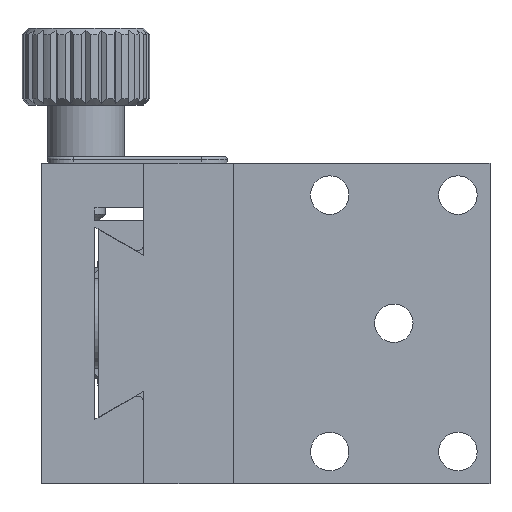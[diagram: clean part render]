
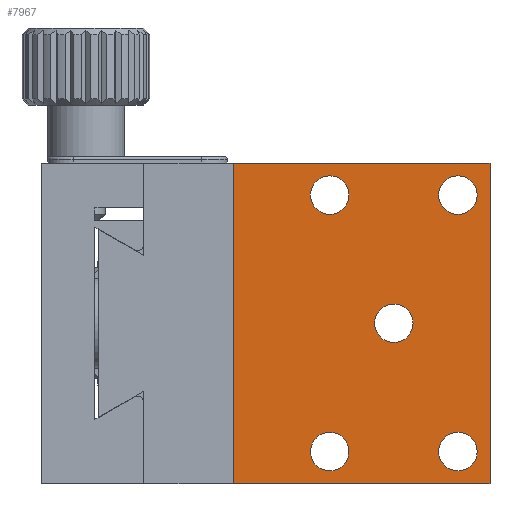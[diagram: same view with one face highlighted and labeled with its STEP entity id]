
A CAD part, front view. The second image highlights one B-rep face of the part: STEP entity #7967.
In plain terms, the highlighted planar face has unit normal (0, -1, 0).
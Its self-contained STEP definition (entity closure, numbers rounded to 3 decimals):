
#90 = CIRCLE ( 'NONE', #2275, 1.5 ) ;
#317 = ORIENTED_EDGE ( 'NONE', *, *, #8765, .F. ) ;
#417 = DIRECTION ( 'NONE',  ( 0., 0., -1. ) ) ;
#430 = DIRECTION ( 'NONE',  ( 0., 0., -1. ) ) ;
#445 = DIRECTION ( 'NONE',  ( 0., -1., 0. ) ) ;
#475 = DIRECTION ( 'NONE',  ( 0., -1., 0. ) ) ;
#486 = CARTESIAN_POINT ( 'NONE',  ( 17.5, 0., -10. ) ) ;
#536 = CARTESIAN_POINT ( 'NONE',  ( 17.5, 0., 10. ) ) ;
#693 = EDGE_LOOP ( 'NONE', ( #6379, #12529 ) ) ;
#899 = VERTEX_POINT ( 'NONE', #2258 ) ;
#1322 = DIRECTION ( 'NONE',  ( 0., -1., 0. ) ) ;
#1689 = AXIS2_PLACEMENT_3D ( 'NONE', #2287, #1322, #11532 ) ;
#1691 = CARTESIAN_POINT ( 'NONE',  ( 0., 0., 12.5 ) ) ;
#1748 = PLANE ( 'NONE',  #9502 ) ;
#1895 = FACE_OUTER_BOUND ( 'NONE', #12212, .T. ) ;
#1983 = CARTESIAN_POINT ( 'NONE',  ( 17.5, 0., 11.5 ) ) ;
#2258 = CARTESIAN_POINT ( 'NONE',  ( 17.5, 0., 8.5 ) ) ;
#2260 = CARTESIAN_POINT ( 'NONE',  ( 12.5, 0., -1.5 ) ) ;
#2275 = AXIS2_PLACEMENT_3D ( 'NONE', #9383, #9363, #9345 ) ;
#2287 = CARTESIAN_POINT ( 'NONE',  ( 17.5, 0., 10. ) ) ;
#2372 = EDGE_LOOP ( 'NONE', ( #10691, #13209 ) ) ;
#2987 = DIRECTION ( 'NONE',  ( 0., 1., 0. ) ) ;
#3073 = AXIS2_PLACEMENT_3D ( 'NONE', #5321, #5287, #5269 ) ;
#3293 = CARTESIAN_POINT ( 'NONE',  ( 7.5, 0., 8.5 ) ) ;
#3404 = ORIENTED_EDGE ( 'NONE', *, *, #6208, .F. ) ;
#3491 = CARTESIAN_POINT ( 'NONE',  ( 7.5, 0., 11.5 ) ) ;
#3797 = VECTOR ( 'NONE', #12247, 1000. ) ;
#3972 = VERTEX_POINT ( 'NONE', #3491 ) ;
#4192 = DIRECTION ( 'NONE',  ( 0., 0., -1. ) ) ;
#4195 = LINE ( 'NONE', #12329, #3797 ) ;
#4201 = DIRECTION ( 'NONE',  ( 0., -1., 0. ) ) ;
#4250 = CARTESIAN_POINT ( 'NONE',  ( 7.5, 0., -10. ) ) ;
#4427 = DIRECTION ( 'NONE',  ( 0., 0., -1. ) ) ;
#4445 = DIRECTION ( 'NONE',  ( 0., -1., 0. ) ) ;
#4457 = AXIS2_PLACEMENT_3D ( 'NONE', #4481, #4445, #4427 ) ;
#4481 = CARTESIAN_POINT ( 'NONE',  ( 12.5, 0., 0. ) ) ;
#4482 = CIRCLE ( 'NONE', #3073, 1.5 ) ;
#4543 = CARTESIAN_POINT ( 'NONE',  ( 17.5, 0., -8.5 ) ) ;
#4774 = AXIS2_PLACEMENT_3D ( 'NONE', #9133, #9114, #9057 ) ;
#4903 = CARTESIAN_POINT ( 'NONE',  ( 20., 0., -12.5 ) ) ;
#4981 = VECTOR ( 'NONE', #12922, 1000. ) ;
#5014 = AXIS2_PLACEMENT_3D ( 'NONE', #6450, #11117, #9968 ) ;
#5062 = EDGE_LOOP ( 'NONE', ( #9037, #10803 ) ) ;
#5269 = DIRECTION ( 'NONE',  ( 0., 0., -1. ) ) ;
#5287 = DIRECTION ( 'NONE',  ( 0., -1., 0. ) ) ;
#5321 = CARTESIAN_POINT ( 'NONE',  ( 7.5, 0., 10. ) ) ;
#5603 = ORIENTED_EDGE ( 'NONE', *, *, #6742, .F. ) ;
#5632 = AXIS2_PLACEMENT_3D ( 'NONE', #4250, #4201, #4192 ) ;
#5770 = EDGE_CURVE ( 'NONE', #3972, #5868, #4482, .T. ) ;
#5868 = VERTEX_POINT ( 'NONE', #3293 ) ;
#5923 = AXIS2_PLACEMENT_3D ( 'NONE', #486, #445, #430 ) ;
#5962 = CIRCLE ( 'NONE', #1689, 1.5 ) ;
#6208 = EDGE_CURVE ( 'NONE', #11369, #12638, #7323, .T. ) ;
#6330 = EDGE_CURVE ( 'NONE', #6832, #11410, #12467, .T. ) ;
#6379 = ORIENTED_EDGE ( 'NONE', *, *, #9294, .F. ) ;
#6450 = CARTESIAN_POINT ( 'NONE',  ( 12.5, 0., 0. ) ) ;
#6633 = CARTESIAN_POINT ( 'NONE',  ( 12.5, 0., 1.5 ) ) ;
#6742 = EDGE_CURVE ( 'NONE', #9093, #12756, #14864, .T. ) ;
#6832 = VERTEX_POINT ( 'NONE', #7129 ) ;
#6854 = CIRCLE ( 'NONE', #5014, 1.5 ) ;
#7129 = CARTESIAN_POINT ( 'NONE',  ( 7.5, 0., -8.5 ) ) ;
#7323 = LINE ( 'NONE', #15067, #10675 ) ;
#7489 = CARTESIAN_POINT ( 'NONE',  ( 0., 0., -12.5 ) ) ;
#7636 = CIRCLE ( 'NONE', #4457, 1.5 ) ;
#7676 = CARTESIAN_POINT ( 'NONE',  ( 17.5, 0., -11.5 ) ) ;
#7948 = DIRECTION ( 'NONE',  ( 0., 0., -1. ) ) ;
#7967 = ADVANCED_FACE ( 'NONE', ( #8853, #15611, #15229, #11824, #8437, #1895 ), #1748, .F. ) ;
#8178 = ORIENTED_EDGE ( 'NONE', *, *, #14735, .F. ) ;
#8231 = CARTESIAN_POINT ( 'NONE',  ( 20., 0., 12.5 ) ) ;
#8245 = VERTEX_POINT ( 'NONE', #1983 ) ;
#8265 = DIRECTION ( 'NONE',  ( 0., -1., 0. ) ) ;
#8437 = FACE_BOUND ( 'NONE', #5062, .T. ) ;
#8658 = CARTESIAN_POINT ( 'NONE',  ( 7.5, 0., -10. ) ) ;
#8765 = EDGE_CURVE ( 'NONE', #12638, #9670, #4195, .T. ) ;
#8794 = LINE ( 'NONE', #12937, #4981 ) ;
#8853 = FACE_BOUND ( 'NONE', #693, .T. ) ;
#8880 = ORIENTED_EDGE ( 'NONE', *, *, #5770, .F. ) ;
#9037 = ORIENTED_EDGE ( 'NONE', *, *, #12157, .F. ) ;
#9057 = DIRECTION ( 'NONE',  ( 0., 0., -1. ) ) ;
#9093 = VERTEX_POINT ( 'NONE', #7676 ) ;
#9114 = DIRECTION ( 'NONE',  ( 0., -1., 0. ) ) ;
#9133 = CARTESIAN_POINT ( 'NONE',  ( 17.5, 0., -10. ) ) ;
#9294 = EDGE_CURVE ( 'NONE', #9441, #11744, #7636, .T. ) ;
#9345 = DIRECTION ( 'NONE',  ( 0., 0., -1. ) ) ;
#9363 = DIRECTION ( 'NONE',  ( 0., -1., 0. ) ) ;
#9383 = CARTESIAN_POINT ( 'NONE',  ( 7.5, 0., 10. ) ) ;
#9411 = CIRCLE ( 'NONE', #11474, 1.5 ) ;
#9441 = VERTEX_POINT ( 'NONE', #2260 ) ;
#9502 = AXIS2_PLACEMENT_3D ( 'NONE', #1691, #2987, #12197 ) ;
#9649 = EDGE_CURVE ( 'NONE', #11744, #9441, #6854, .T. ) ;
#9670 = VERTEX_POINT ( 'NONE', #4903 ) ;
#9687 = AXIS2_PLACEMENT_3D ( 'NONE', #8658, #8265, #7948 ) ;
#9968 = DIRECTION ( 'NONE',  ( 0., 0., -1. ) ) ;
#10319 = VECTOR ( 'NONE', #13829, 1000. ) ;
#10375 = EDGE_CURVE ( 'NONE', #8245, #899, #9411, .T. ) ;
#10675 = VECTOR ( 'NONE', #15124, 1000. ) ;
#10691 = ORIENTED_EDGE ( 'NONE', *, *, #16437, .F. ) ;
#10803 = ORIENTED_EDGE ( 'NONE', *, *, #10375, .F. ) ;
#11073 = ORIENTED_EDGE ( 'NONE', *, *, #14002, .F. ) ;
#11117 = DIRECTION ( 'NONE',  ( 0., -1., 0. ) ) ;
#11171 = ORIENTED_EDGE ( 'NONE', *, *, #11346, .T. ) ;
#11346 = EDGE_CURVE ( 'NONE', #13512, #9670, #8794, .T. ) ;
#11369 = VERTEX_POINT ( 'NONE', #12906 ) ;
#11410 = VERTEX_POINT ( 'NONE', #11907 ) ;
#11474 = AXIS2_PLACEMENT_3D ( 'NONE', #536, #475, #417 ) ;
#11532 = DIRECTION ( 'NONE',  ( 0., 0., -1. ) ) ;
#11698 = EDGE_LOOP ( 'NONE', ( #8178, #8880 ) ) ;
#11744 = VERTEX_POINT ( 'NONE', #6633 ) ;
#11824 = FACE_BOUND ( 'NONE', #11698, .T. ) ;
#11907 = CARTESIAN_POINT ( 'NONE',  ( 7.5, 0., -11.5 ) ) ;
#12157 = EDGE_CURVE ( 'NONE', #899, #8245, #5962, .T. ) ;
#12197 = DIRECTION ( 'NONE',  ( 0., 0., 1. ) ) ;
#12212 = EDGE_LOOP ( 'NONE', ( #11171, #317, #3404, #15349 ) ) ;
#12247 = DIRECTION ( 'NONE',  ( 0., 0., -1. ) ) ;
#12329 = CARTESIAN_POINT ( 'NONE',  ( 20., 0., 12.5 ) ) ;
#12467 = CIRCLE ( 'NONE', #9687, 1.5 ) ;
#12510 = CIRCLE ( 'NONE', #5923, 1.5 ) ;
#12529 = ORIENTED_EDGE ( 'NONE', *, *, #9649, .F. ) ;
#12638 = VERTEX_POINT ( 'NONE', #8231 ) ;
#12756 = VERTEX_POINT ( 'NONE', #4543 ) ;
#12906 = CARTESIAN_POINT ( 'NONE',  ( 0., 0., 12.5 ) ) ;
#12922 = DIRECTION ( 'NONE',  ( 1., 0., 0. ) ) ;
#12937 = CARTESIAN_POINT ( 'NONE',  ( 0., 0., -12.5 ) ) ;
#13209 = ORIENTED_EDGE ( 'NONE', *, *, #6330, .F. ) ;
#13476 = CARTESIAN_POINT ( 'NONE',  ( 0., 0., 12.5 ) ) ;
#13512 = VERTEX_POINT ( 'NONE', #7489 ) ;
#13691 = LINE ( 'NONE', #13476, #10319 ) ;
#13829 = DIRECTION ( 'NONE',  ( 0., 0., -1. ) ) ;
#14002 = EDGE_CURVE ( 'NONE', #12756, #9093, #12510, .T. ) ;
#14412 = EDGE_CURVE ( 'NONE', #11369, #13512, #13691, .T. ) ;
#14735 = EDGE_CURVE ( 'NONE', #5868, #3972, #90, .T. ) ;
#14864 = CIRCLE ( 'NONE', #4774, 1.5 ) ;
#15067 = CARTESIAN_POINT ( 'NONE',  ( 0., 0., 12.5 ) ) ;
#15124 = DIRECTION ( 'NONE',  ( 1., 0., 0. ) ) ;
#15229 = FACE_BOUND ( 'NONE', #2372, .T. ) ;
#15349 = ORIENTED_EDGE ( 'NONE', *, *, #14412, .T. ) ;
#15611 = FACE_BOUND ( 'NONE', #16579, .T. ) ;
#15652 = CIRCLE ( 'NONE', #5632, 1.5 ) ;
#16437 = EDGE_CURVE ( 'NONE', #11410, #6832, #15652, .T. ) ;
#16579 = EDGE_LOOP ( 'NONE', ( #5603, #11073 ) ) ;
